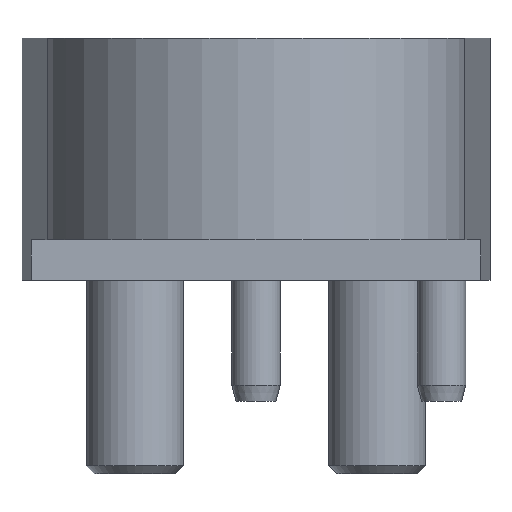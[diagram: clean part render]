
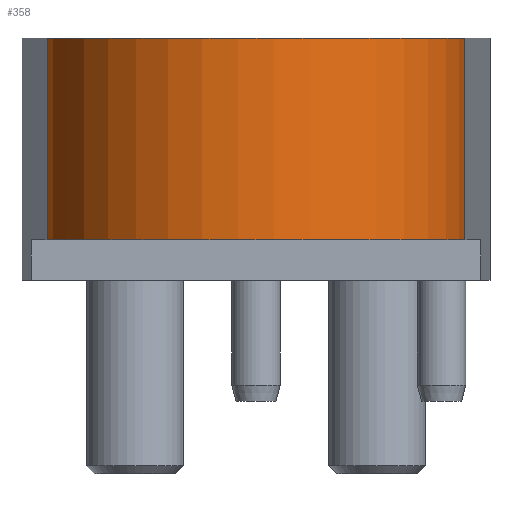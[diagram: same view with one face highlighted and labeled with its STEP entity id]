
A CAD part, left-side view. The second image highlights one B-rep face of the part: STEP entity #358.
In plain terms, the highlighted cylindrical face has radius 26 mm (diameter 52 mm), a partial arc.
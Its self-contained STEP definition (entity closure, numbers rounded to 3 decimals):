
#185=CYLINDRICAL_SURFACE('',#2260,26.);
#238=CIRCLE('',#2258,26.);
#239=CIRCLE('',#2259,26.);
#358=ADVANCED_FACE('',(#553),#185,.T.);
#553=FACE_OUTER_BOUND('',#671,.T.);
#671=EDGE_LOOP('',(#865,#866,#867,#868));
#865=ORIENTED_EDGE('',*,*,#1636,.F.);
#866=ORIENTED_EDGE('',*,*,#1635,.T.);
#867=ORIENTED_EDGE('',*,*,#1637,.F.);
#868=ORIENTED_EDGE('',*,*,#1628,.F.);
#1431=VERTEX_POINT('',#3234);
#1432=VERTEX_POINT('',#3236);
#1434=VERTEX_POINT('',#3242);
#1436=VERTEX_POINT('',#3247);
#1628=EDGE_CURVE('',#1431,#1432,#1912,.T.);
#1635=EDGE_CURVE('',#1434,#1436,#1919,.T.);
#1636=EDGE_CURVE('',#1434,#1431,#238,.T.);
#1637=EDGE_CURVE('',#1432,#1436,#239,.T.);
#1912=LINE('',#3235,#2082);
#1919=LINE('',#3248,#2089);
#2082=VECTOR('',#2552,1.);
#2089=VECTOR('',#2561,1.);
#2258=AXIS2_PLACEMENT_3D('',#3250,#2564,#2565);
#2259=AXIS2_PLACEMENT_3D('',#3251,#2566,#2567);
#2260=AXIS2_PLACEMENT_3D('',#3252,#2568,#2569);
#2552=DIRECTION('',(0.,0.,1.));
#2561=DIRECTION('',(0.,0.,1.));
#2564=DIRECTION('',(0.,0.,-1.));
#2565=DIRECTION('',(1.,0.,0.));
#2566=DIRECTION('',(0.,0.,1.));
#2567=DIRECTION('',(1.,0.,0.));
#2568=DIRECTION('',(0.,0.,1.));
#2569=DIRECTION('',(-1.,0.,0.));
#3234=CARTESIAN_POINT('',(-2.342,25.894,5.));
#3235=CARTESIAN_POINT('',(-2.342,25.894,0.));
#3236=CARTESIAN_POINT('',(-2.342,25.894,30.));
#3242=CARTESIAN_POINT('',(-2.342,-25.894,5.));
#3247=CARTESIAN_POINT('',(-2.342,-25.894,30.));
#3248=CARTESIAN_POINT('',(-2.342,-25.894,0.));
#3250=CARTESIAN_POINT('',(0.,0.,5.));
#3251=CARTESIAN_POINT('',(0.,0.,30.));
#3252=CARTESIAN_POINT('',(0.,0.,0.));
